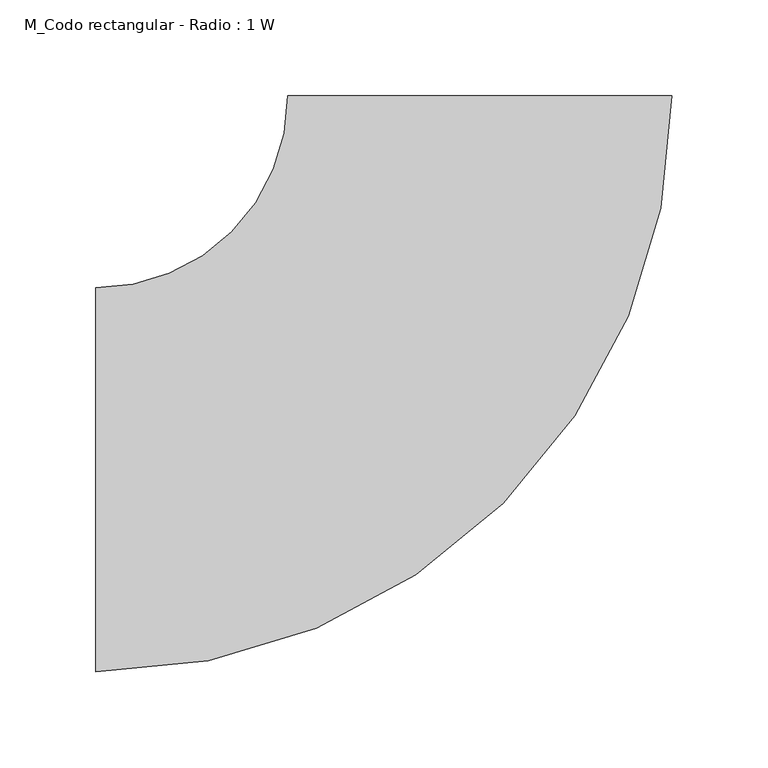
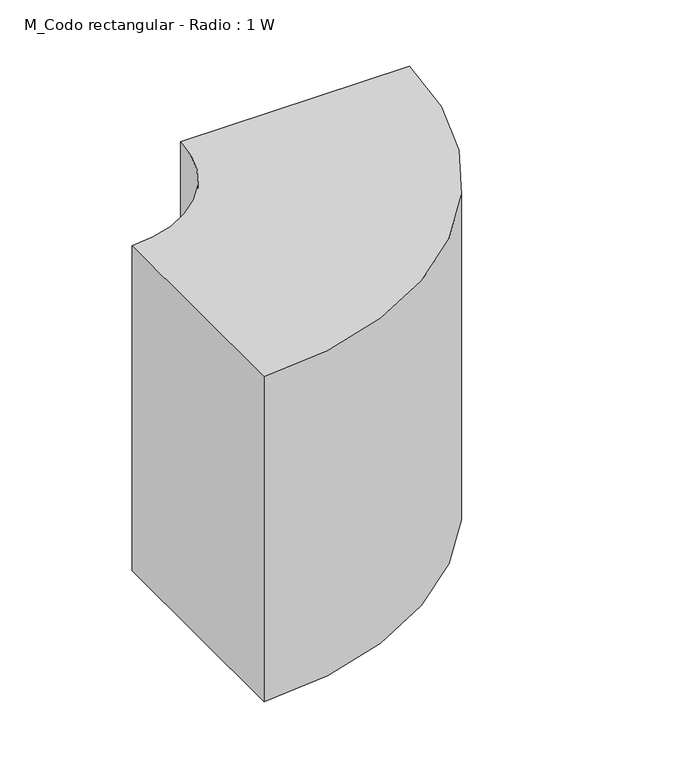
"""IFC4 building model written with IfcOpenShell, lengths in millimetres: duct fitting geometry, M_Codo rectangular - Radio : 1 W."""

from ifc_helpers import new_model, si_unit, point, frame, frame_2d, origin, place, context, project, spatial, polyline, circle_curve, trimmed, segment, composite_curve, outline, extrude, source, transform, mapped, element, save


def m_codo_rectangular_radio_1_w_505d9212(model_context):
    return source(origin(), model_context, "Body", "SweptSolid", [
        extrude(outline(composite_curve([segment(trimmed(circle_curve(frame_2d((-200.0, 200.0)), 300.0), [point((100.0, 200.0))], [point((-200.0, -100.0))], False, "CARTESIAN"), True, "CONTINUOUS"), segment(polyline([(-200.0, -100.0), (-200.0, 100.0)]), True, "CONTINUOUS"), segment(trimmed(circle_curve(frame_2d((-200.0, 200.0)), 100.0), [point((-200.0, 100.0))], [point((-100.0, 200.0))], True, "CARTESIAN"), True, "CONTINUOUS"), segment(polyline([(-100.0, 200.0), (100.0, 200.0)]), True, "CONTINUOUS")], self_intersect=False)), frame((0.0, 0.0, -150.0), z_axis=(0.0, 0.0, 1.0), x_axis=(1.0, 0.0, 0.0)), (0.0, 0.0, 1.0), 300.0),
    ])


if __name__ == "__main__":
    model = new_model("IFC4")
    model_context = context("Model", 3, world=origin())
    ifc_project = project(units=[si_unit("LENGTHUNIT", "METRE", prefix="MILLI")], contexts=[model_context])
    site = spatial("IfcSite", under=ifc_project)
    building = spatial("IfcBuilding", under=site)
    placement = place(None, origin())
    m_codo_rectangular_radio_1_w_shape = m_codo_rectangular_radio_1_w_505d9212(model_context)
    element("IfcDuctFitting", 1, ObjectType="M_Codo rectangular - Radio : 1 W", at=placement, inside=building, context=model_context, shape_type="MappedRepresentation", body=[
        mapped(m_codo_rectangular_radio_1_w_shape, transform((0.0, 0.0, 0.0), x_axis=(1.0, 0.0, 0.0), y_axis=(0.0, 1.0, 0.0), z_axis=(0.0, 0.0, 1.0))),
    ])
    save(model, "model.ifc")
